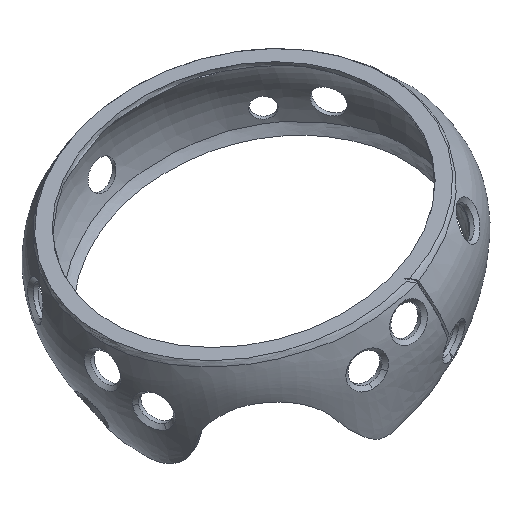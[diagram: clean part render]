
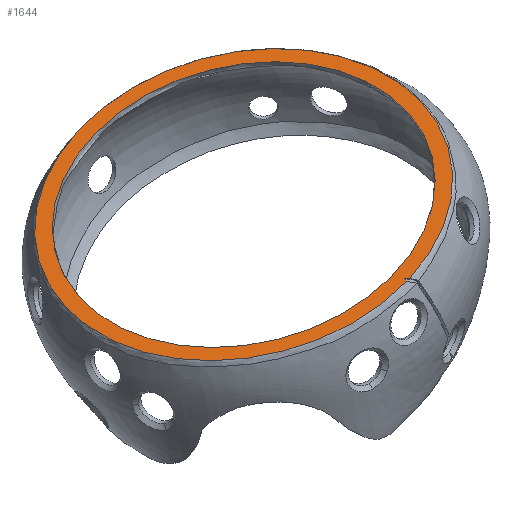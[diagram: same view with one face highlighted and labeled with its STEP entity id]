
A CAD part, top view. The second image highlights one B-rep face of the part: STEP entity #1644.
In plain terms, the highlighted planar face has unit normal (-0.173, 0.677, 0.716).
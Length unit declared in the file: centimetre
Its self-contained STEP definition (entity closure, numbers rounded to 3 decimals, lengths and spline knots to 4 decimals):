
#24=CIRCLE('',#1682,43.9389);
#25=CIRCLE('',#1692,40.2314);
#72=FACE_BOUND('',#394,.T.);
#120=LINE('',#25726,#179);
#123=LINE('',#25847,#182);
#179=VECTOR('',#1795,10.1);
#182=VECTOR('',#1802,10.1);
#203=PLANE('',#1691);
#282=FACE_OUTER_BOUND('',#393,.T.);
#393=EDGE_LOOP('',(#1499,#1500,#1501));
#394=EDGE_LOOP('',(#1502));
#728=VERTEX_POINT('',#18997);
#729=VERTEX_POINT('',#19004);
#749=VERTEX_POINT('',#25724);
#752=VERTEX_POINT('',#27278);
#952=EDGE_CURVE('',#728,#729,#24,.T.);
#987=EDGE_CURVE('',#728,#749,#120,.T.);
#995=EDGE_CURVE('',#749,#729,#123,.T.);
#1003=EDGE_CURVE('',#752,#752,#25,.T.);
#1499=ORIENTED_EDGE('',*,*,#995,.T.);
#1500=ORIENTED_EDGE('',*,*,#952,.F.);
#1501=ORIENTED_EDGE('',*,*,#987,.T.);
#1502=ORIENTED_EDGE('',*,*,#1003,.F.);
#1644=ADVANCED_FACE('',(#282,#72),#203,.T.);
#1682=AXIS2_PLACEMENT_3D('',#19005,#1777,#1778);
#1691=AXIS2_PLACEMENT_3D('',#27277,#1813,#1814);
#1692=AXIS2_PLACEMENT_3D('',#27279,#1815,#1816);
#1777=DIRECTION('center_axis',(0.173,-0.677,-0.716));
#1778=DIRECTION('ref_axis',(0.969,0.248,0.));
#1795=DIRECTION('',(-0.413,0.61,-0.676));
#1802=DIRECTION('',(0.966,-0.024,0.257));
#1813=DIRECTION('center_axis',(-0.173,0.677,0.716));
#1814=DIRECTION('ref_axis',(0.972,0.,0.235));
#1815=DIRECTION('center_axis',(-0.173,0.677,0.716));
#1816=DIRECTION('ref_axis',(0.969,0.248,0.));
#18997=CARTESIAN_POINT('',(72.0233,-0.1806,47.1342));
#19004=CARTESIAN_POINT('',(72.5819,0.4107,46.7102));
#19005=CARTESIAN_POINT('Origin',(38.2906,15.7474,23.9172));
#25724=CARTESIAN_POINT('',(71.606,0.4352,46.4511));
#25726=CARTESIAN_POINT('',(63.8939,11.8168,33.8249));
#25847=CARTESIAN_POINT('',(53.0822,0.9,41.5322));
#27277=CARTESIAN_POINT('Origin',(38.2906,15.7474,23.9172));
#27278=CARTESIAN_POINT('',(-0.6862,5.7787,23.9172));
#27279=CARTESIAN_POINT('Origin',(38.2906,15.7474,23.9172));
